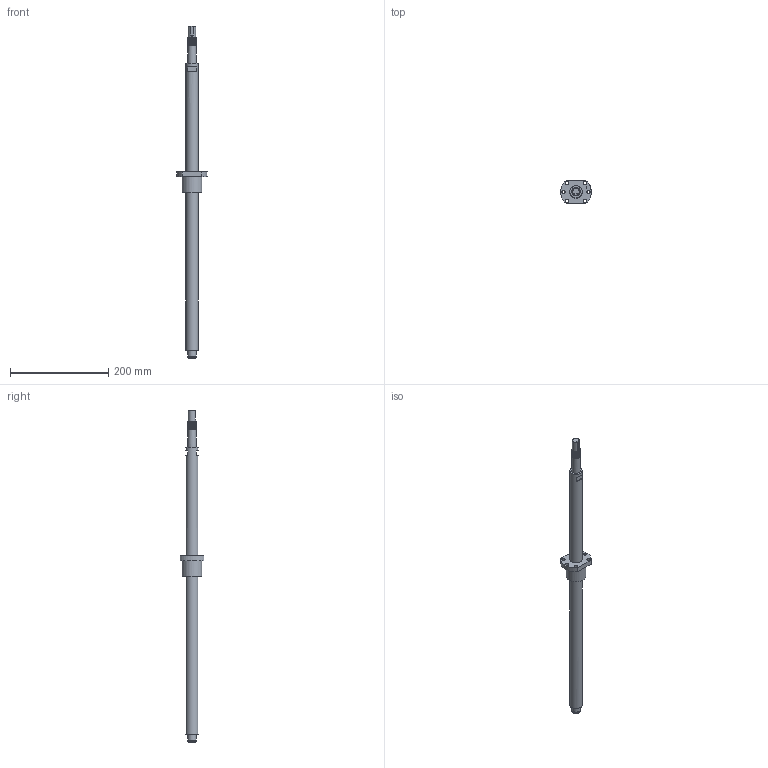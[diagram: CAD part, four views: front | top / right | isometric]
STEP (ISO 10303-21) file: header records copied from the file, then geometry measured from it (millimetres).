
FILE_DESCRIPTION(/* description */ (''),/* implementation_level */ '2;1');
FILE_NAME(/* name */ 'BSG280_asm1.stp',/* time_stamp */ '2017-01-12T10:11:31+08:00',/* author */ (''),/* organization */ (''),/* preprocessor_version */ 'ST-DEVELOPER v15',/* originating_system */ 'SIEMENS PLM Software NX 8.5',/* authorisation */ '');
FILE_SCHEMA (('AUTOMOTIVE_DESIGN { 1 0 10303 214 3 1 1 1 }'));
Length unit declared in the file: millimetre
Products named in the file (3): 01; BSG280; BSG280_asm1
Assembly tree (2 placements, depth 2):
  BSG280_asm1
    BSG280
    01
Bounding box: 61.8 x 48 x 675 mm (x, y, z)
Volume: 43546.8 mm3; surface area: 66882.3 mm2
Topology: 1 solids, 2 shells, 64 faces, 163 edges, 111 vertices
Faces by surface type: cylinder 36, plane 24, bspline 2, cone 2
Full cylindrical faces by diameter (mm): 5 x1, 6 x1, 6.6 x6, 15 x1, 16.2 x1, 17 x19, 25 x2, 40 x1
Entity records: 4684 total; most frequent: CARTESIAN_POINT 3601, DIRECTION 212, ORIENTED_EDGE 170, AXIS2_PLACEMENT_3D 92, EDGE_LOOP 90, EDGE_CURVE 85, FACE_BOUND 69, VERTEX_POINT 67
